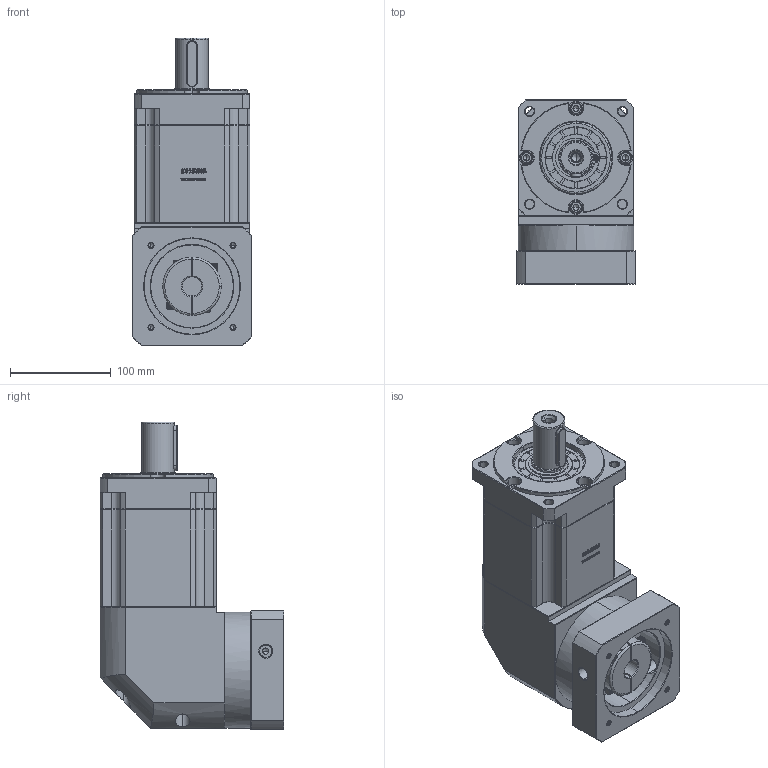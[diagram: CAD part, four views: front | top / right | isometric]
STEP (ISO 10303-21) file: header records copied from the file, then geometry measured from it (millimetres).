
FILE_DESCRIPTION (( 'STEP AP214' ), '1' );
FILE_NAME ('ZBR115A-D32-L3-19-95-115-M6.step', '2023-03-03T05:03:14', ( '' ), ( 'Microsoft' ), 'SwSTEP 2.0', 'SolidWorks 2016', '' );
FILE_SCHEMA (( 'AUTOMOTIVE_DESIGN' ));
Length unit declared in the file: millimetre
Products named in the file (1): ZBR115A-D32-L3-19-95-115-M6
Bounding box: 118 x 182.4 x 305 mm (x, y, z)
Volume: 3537884.9 mm3; surface area: 264035.8 mm2
Topology: 6 solids, 6 shells, 2970 faces, 7882 edges, 5057 vertices
Faces by surface type: plane 1558, bspline 610, cylinder 424, cone 370, torus 8
Entity records: 162448 total; most frequent: CARTESIAN_POINT 60850, ORIENTED_EDGE 15704, DIRECTION 11902, EDGE_CURVE 7852, VECTOR 5288, LINE 5288, VERTEX_POINT 5057, AXIS2_PLACEMENT_3D 3307
